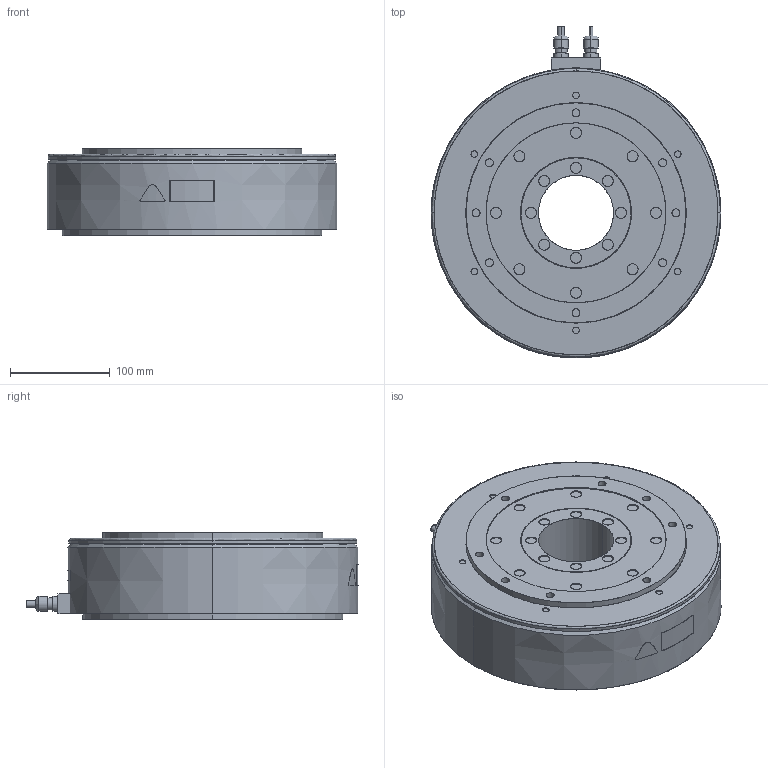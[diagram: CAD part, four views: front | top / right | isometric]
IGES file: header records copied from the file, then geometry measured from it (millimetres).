
Start section: SolidWorks IGES file using analytic representation for surfaces
Bounding box: 290 x 332.1 x 88 mm (x, y, z)
Surface area: 236199.1 mm2 (no closed solid volume)
Topology: 0 solids, 0 shells, 234 faces, 5544 edges, 5544 vertices
Faces by surface type: revolution 142, bspline 92
